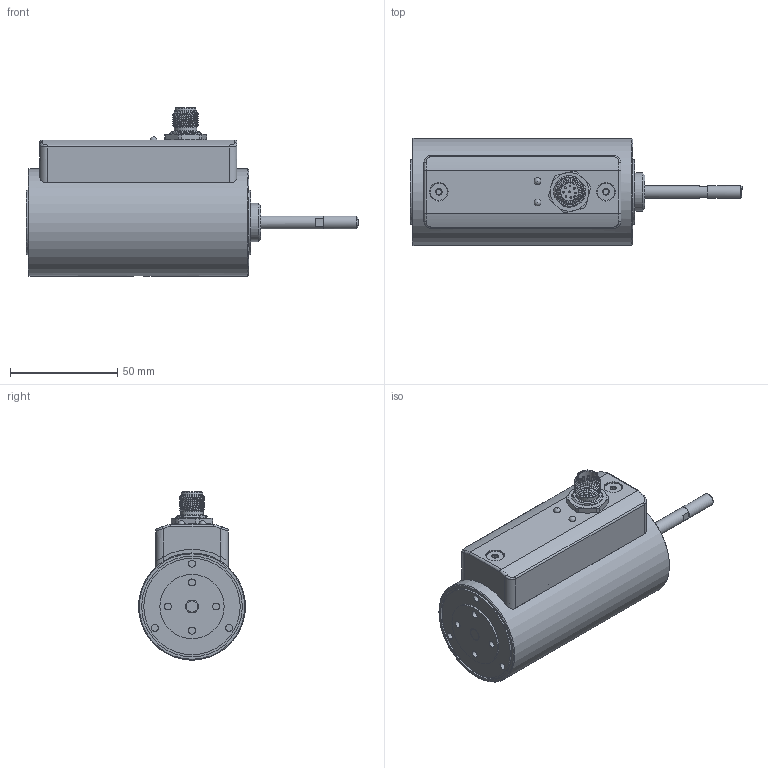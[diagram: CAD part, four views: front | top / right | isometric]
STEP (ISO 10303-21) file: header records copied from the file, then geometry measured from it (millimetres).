
FILE_DESCRIPTION(/* description */ ('Unknown'),/* implementation_level */ '2;1');
FILE_NAME(/* name */ '133_ZU_DYM-050_25_20N',/* time_stamp */ '2023-11-09T09:33:54+01:00',/* author */ ('Unknown'),/* organization */ ('Unknown'),/* preprocessor_version */ 'ST-DEVELOPER v18.104',/* originating_system */ 'Solid Edge',/* authorisation */ 'Unknown');
FILE_SCHEMA (('AUTOMOTIVE_DESIGN {1 0 10303 214 3 1 1}'));
Length unit declared in the file: millimetre
Products named in the file (18): 133_ZU_DYM-050_25_20N; V2211_SH_Zug-GI-50_25; V2211_ANAC-DYM-050_25_oa_0; 916_00001_SPST_03x14; 445_00133_LA_PTFE_06_08x08; V2211_AN_DYM-050_25_oa_1; V2211_AC-DYM-050_oa_2; V2211_MG-GIu-50_25; V2211_SH_Stoss-GI-50_25; 454_00227_M12-T4140012081-000-A-8polig; 435_00039_IPHA-GI-50_10; V2211_AC_kurz-GIu-50_25; 918_00396_GEST_M05x16; 470_00236_Lichtleiter_1282_1000-gruen; 470_00236_Lichtleiter_1282_1000; V2211_M12-Gehaeuse_GIu-50_25; 918_00395_SESC_M04x16; 910_00268_O-Ring-75x2_eingebaut
Assembly tree (19 placements, depth 3):
  133_ZU_DYM-050_25_20N
    V2211_SH_Zug-GI-50_25
    V2211_ANAC-DYM-050_25_oa_0
      916_00001_SPST_03x14
      445_00133_LA_PTFE_06_08x08
      V2211_AN_DYM-050_25_oa_1
      V2211_AC-DYM-050_oa_2
    V2211_MG-GIu-50_25
    V2211_SH_Stoss-GI-50_25
    445_00133_LA_PTFE_06_08x08
    454_00227_M12-T4140012081-000-A-8polig
    435_00039_IPHA-GI-50_10
    V2211_AC_kurz-GIu-50_25
    918_00396_GEST_M05x16
    470_00236_Lichtleiter_1282_1000-gruen
    470_00236_Lichtleiter_1282_1000
    V2211_M12-Gehaeuse_GIu-50_25
    918_00395_SESC_M04x16  x2
    910_00268_O-Ring-75x2_eingebaut
Bounding box: 155 x 50 x 78.5 mm (x, y, z)
Volume: 114673.9 mm3; surface area: 83111.3 mm2
Topology: 18 solids, 18 shells, 968 faces, 2405 edges, 1539 vertices
Faces by surface type: plane 540, cylinder 222, cone 81, bspline 74, torus 37, sphere 14
Full cylindrical faces by diameter (mm): 0.6 x8, 0.8 x8, 1 x8, 1.3 x8, 2 x2, 2.6 x2, 2.8 x2, 3 x5, 3.242 x19, 3.5 x1, 4 x2, 4.134 x1, 4.2 x2, 5 x3, 6 x7, 6.2 x1, 6.5 x1, 7 x2, 7.6 x1, 8 x4, 8.3 x1, 8.6 x2, 9 x2, 9.5 x1, 10 x1, 10.6 x2, 11 x1, 12.8 x1, 13.3 x1, 14.8 x1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
Entity records: 36145 total; most frequent: CARTESIAN_POINT 10512, ORIENTED_EDGE 4140, DIRECTION 4066, EDGE_CURVE 2070, VERTEX_POINT 1433, AXIS2_PLACEMENT_3D 1410, FACE_BOUND 1259, EDGE_LOOP 1256
